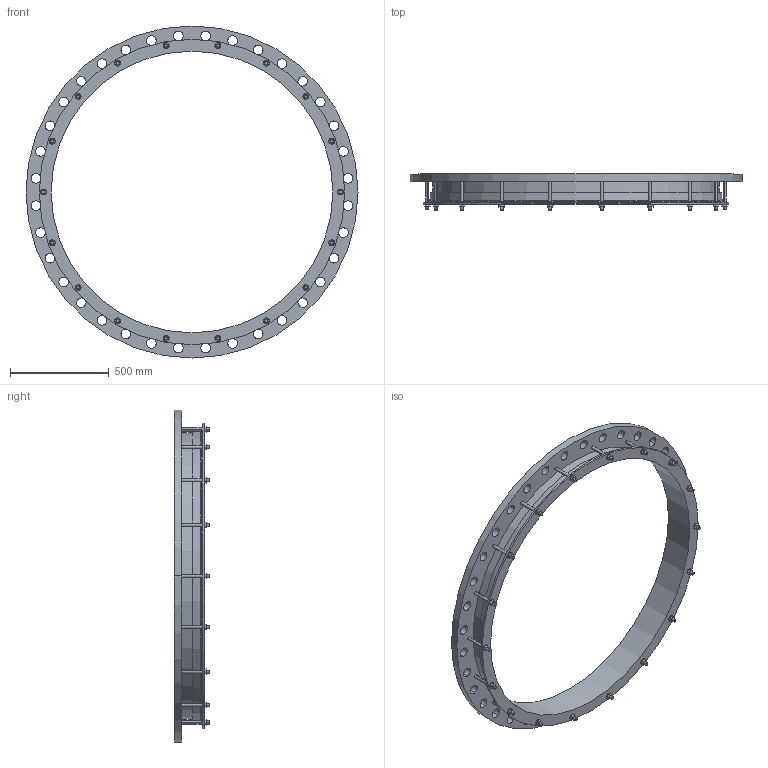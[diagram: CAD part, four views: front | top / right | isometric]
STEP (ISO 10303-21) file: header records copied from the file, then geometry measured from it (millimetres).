
FILE_DESCRIPTION((''),'2;1');
FILE_NAME('1426X1400PN16','2019-01-17T',('mfairey'),('Glynwed Pipe Systems'),'CREO PARAMETRIC BY PTC INC, 2016130','CREO PARAMETRIC BY PTC INC, 2016130','');
FILE_SCHEMA(('CONFIG_CONTROL_DESIGN'));
Length unit declared in the file: millimetre
Products named in the file (1): 1426X1400PN16
Bounding box: 1685 x 182 x 1685 mm (x, y, z)
Volume: 33391162.3 mm3; surface area: 3294889.3 mm2
Topology: 1 solids, 1 shells, 360 faces, 956 edges, 636 vertices
Faces by surface type: cylinder 188, plane 166, cone 4, torus 2
Entity records: 12794 total; most frequent: CARTESIAN_POINT 3348, DIRECTION 1964, ORIENTED_EDGE 1912, EDGE_CURVE 956, AXIS2_PLACEMENT_3D 724, VERTEX_POINT 636, VECTOR 516, LINE 516
